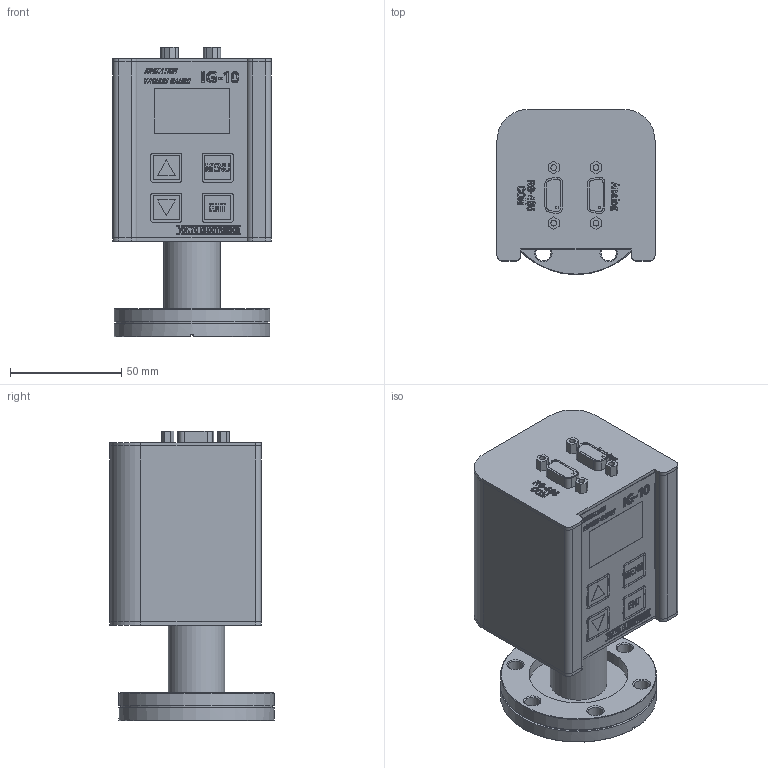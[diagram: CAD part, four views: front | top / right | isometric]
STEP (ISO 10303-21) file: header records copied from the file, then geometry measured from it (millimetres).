
FILE_DESCRIPTION(/* description */ (''),/* implementation_level */ '2;1');
FILE_NAME(/* name */ '',/* time_stamp */ '2023-09-08T15:03:30+09:00',/* author */ (''),/* organization */ (''),/* preprocessor_version */ 'ST-DEVELOPER v20',/* originating_system */ 'Autodesk Translation Framework v12.9.0.99',/* authorisation */ '');
FILE_SCHEMA (('AUTOMOTIVE_DESIGN { 1 0 10303 214 3 1 1 }'));
Products named in the file (5): IG-10外観図(ICF70R); Dsub9pin; ICF70R（L=43） v1; ICF70R42.7B-1; ICF70R42.7B-2
Assembly tree (5 placements, depth 3):
  IG-10外観図(ICF70R)
    Dsub9pin  x2
    ICF70R（L=43） v1
      ICF70R42.7B-1
      ICF70R42.7B-2
Bounding box: 71 x 74 x 130.15 mm (x, y, z)
Volume: 404573 mm3; surface area: 81434.6 mm2
Topology: 107 solids, 107 shells, 2087 faces, 5591 edges, 3725 vertices
Faces by surface type: plane 1219, bspline 764, cylinder 85, cone 19
Full cylindrical faces by diameter (mm): 2.6 x4, 6.8 x6, 23.6 x1, 25.4 x1, 42 x1, 44.5 x1, 48.1 x1, 48.2 x1, 68 x1, 70 x2
Entity records: 72427 total; most frequent: CARTESIAN_POINT 26001, ORIENTED_EDGE 10930, DIRECTION 6684, EDGE_CURVE 5465, LINE 3752, VECTOR 3752, VERTEX_POINT 3641, EDGE_LOOP 2238
